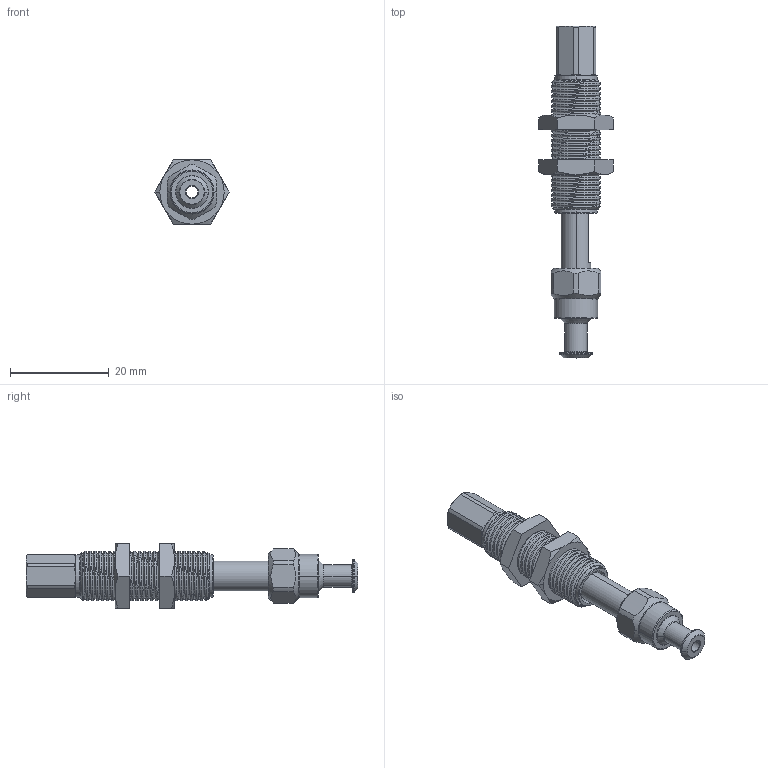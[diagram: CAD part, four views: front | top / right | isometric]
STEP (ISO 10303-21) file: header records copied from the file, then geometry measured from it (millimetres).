
FILE_DESCRIPTION (( 'STEP AP203' ), '1' );
FILE_NAME ('bln04-4bt10m10nk55a-m5b-Z耳6.6耳4.5_asm.STEP', '2024-10-29T05:31:29', ( '' ), ( '' ), 'SwSTEP 2.0', 'SolidWorks 2022', '' );
FILE_SCHEMA (( 'CONFIG_CONTROL_DESIGN' ));
Length unit declared in the file: millimetre
Products named in the file (1): bln04-4bt10m10nk55a-m5b-Zφ6.6φ4.5_asm
Bounding box: 15.01 x 67.1 x 13 mm (x, y, z)
Surface area: 3565.5 mm2 (no closed solid volume)
Topology: 0 solids, 9 shells, 225 faces, 629 edges, 413 vertices
Faces by surface type: cylinder 81, cone 67, plane 40, bspline 21, torus 16
Entity records: 14979 total; most frequent: CARTESIAN_POINT 9655, ORIENTED_EDGE 1135, DIRECTION 947, EDGE_CURVE 629, VERTEX_POINT 413, AXIS2_PLACEMENT_3D 391, B_SPLINE_CURVE_WITH_KNOTS 278, EDGE_LOOP 238
